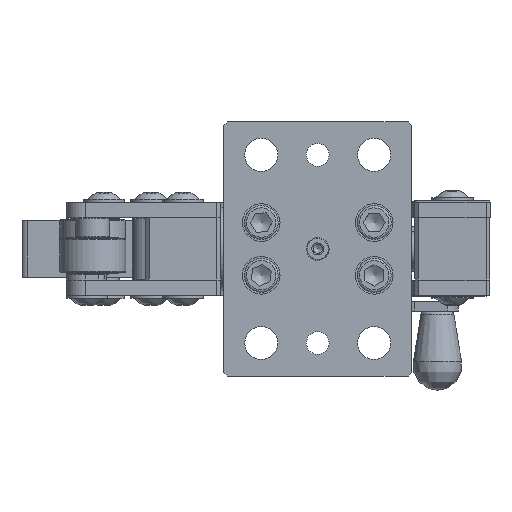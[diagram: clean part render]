
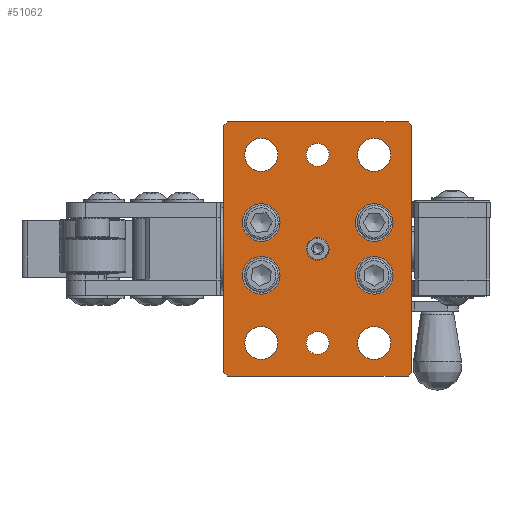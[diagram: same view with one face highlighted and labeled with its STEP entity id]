
A CAD part, left-side view. The second image highlights one B-rep face of the part: STEP entity #51062.
In plain terms, the highlighted planar face has unit normal (-1, 0, 0) as drawn and (0, 0, -1) by its records, which use the part's own axes.
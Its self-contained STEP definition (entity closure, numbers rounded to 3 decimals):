
#3654=FACE_BOUND('',#11273,.T.);
#3655=FACE_BOUND('',#11274,.T.);
#3656=FACE_BOUND('',#11275,.T.);
#3657=FACE_BOUND('',#11276,.T.);
#3658=FACE_BOUND('',#11277,.T.);
#3659=FACE_BOUND('',#11278,.T.);
#3660=FACE_BOUND('',#11279,.T.);
#3661=FACE_BOUND('',#11280,.T.);
#3662=FACE_BOUND('',#11281,.T.);
#3663=FACE_BOUND('',#11282,.T.);
#3664=FACE_BOUND('',#11283,.T.);
#5345=PLANE('',#53559);
#7992=FACE_OUTER_BOUND('',#11272,.T.);
#11272=EDGE_LOOP('',(#47051,#47052,#47053,#47054,#47055,#47056,#47057,#47058));
#11273=EDGE_LOOP('',(#47059));
#11274=EDGE_LOOP('',(#47060));
#11275=EDGE_LOOP('',(#47061));
#11276=EDGE_LOOP('',(#47062));
#11277=EDGE_LOOP('',(#47063));
#11278=EDGE_LOOP('',(#47064));
#11279=EDGE_LOOP('',(#47065));
#11280=EDGE_LOOP('',(#47066));
#11281=EDGE_LOOP('',(#47067));
#11282=EDGE_LOOP('',(#47068));
#11283=EDGE_LOOP('',(#47069));
#16311=LINE('',#89363,#21236);
#16318=LINE('',#89375,#21243);
#16324=LINE('',#89387,#21249);
#16326=LINE('',#89391,#21251);
#16328=LINE('',#89397,#21253);
#16330=LINE('',#89401,#21255);
#16335=LINE('',#89409,#21260);
#16338=LINE('',#89460,#21263);
#21236=VECTOR('',#62763,2.828);
#21243=VECTOR('',#62772,131.);
#21249=VECTOR('',#62782,2.828);
#21251=VECTOR('',#62786,96.);
#21253=VECTOR('',#62792,2.828);
#21255=VECTOR('',#62796,131.);
#21260=VECTOR('',#62803,2.828);
#21263=VECTOR('',#62870,96.);
#21882=CIRCLE('',#53485,6.05);
#21884=CIRCLE('',#53488,6.05);
#21886=CIRCLE('',#53491,6.05);
#21889=CIRCLE('',#53497,8.75);
#21893=CIRCLE('',#53504,8.75);
#21897=CIRCLE('',#53511,8.75);
#21900=CIRCLE('',#53517,8.75);
#21907=CIRCLE('',#53538,10.);
#21910=CIRCLE('',#53544,10.);
#21913=CIRCLE('',#53550,10.);
#21916=CIRCLE('',#53556,10.);
#26386=VERTEX_POINT('',#89304);
#26388=VERTEX_POINT('',#89309);
#26390=VERTEX_POINT('',#89314);
#26393=VERTEX_POINT('',#89323);
#26397=VERTEX_POINT('',#89334);
#26401=VERTEX_POINT('',#89345);
#26404=VERTEX_POINT('',#89354);
#26407=VERTEX_POINT('',#89360);
#26408=VERTEX_POINT('',#89362);
#26412=VERTEX_POINT('',#89373);
#26416=VERTEX_POINT('',#89385);
#26417=VERTEX_POINT('',#89389);
#26418=VERTEX_POINT('',#89394);
#26419=VERTEX_POINT('',#89396);
#26420=VERTEX_POINT('',#89400);
#26429=VERTEX_POINT('',#89429);
#26432=VERTEX_POINT('',#89438);
#26435=VERTEX_POINT('',#89447);
#26438=VERTEX_POINT('',#89456);
#33340=EDGE_CURVE('',#26386,#26386,#21882,.T.);
#33342=EDGE_CURVE('',#26388,#26388,#21884,.T.);
#33344=EDGE_CURVE('',#26390,#26390,#21886,.T.);
#33347=EDGE_CURVE('',#26393,#26393,#21889,.T.);
#33351=EDGE_CURVE('',#26397,#26397,#21893,.T.);
#33355=EDGE_CURVE('',#26401,#26401,#21897,.T.);
#33358=EDGE_CURVE('',#26404,#26404,#21900,.T.);
#33361=EDGE_CURVE('',#26407,#26408,#16311,.T.);
#33368=EDGE_CURVE('',#26407,#26412,#16318,.T.);
#33374=EDGE_CURVE('',#26416,#26412,#16324,.T.);
#33376=EDGE_CURVE('',#26416,#26417,#16326,.T.);
#33378=EDGE_CURVE('',#26418,#26419,#16328,.T.);
#33380=EDGE_CURVE('',#26420,#26419,#16330,.T.);
#33385=EDGE_CURVE('',#26420,#26417,#16335,.T.);
#33394=EDGE_CURVE('',#26429,#26429,#21907,.T.);
#33397=EDGE_CURVE('',#26432,#26432,#21910,.T.);
#33400=EDGE_CURVE('',#26435,#26435,#21913,.T.);
#33403=EDGE_CURVE('',#26438,#26438,#21916,.T.);
#33404=EDGE_CURVE('',#26418,#26408,#16338,.T.);
#47051=ORIENTED_EDGE('',*,*,#33361,.F.);
#47052=ORIENTED_EDGE('',*,*,#33368,.T.);
#47053=ORIENTED_EDGE('',*,*,#33374,.F.);
#47054=ORIENTED_EDGE('',*,*,#33376,.T.);
#47055=ORIENTED_EDGE('',*,*,#33385,.F.);
#47056=ORIENTED_EDGE('',*,*,#33380,.T.);
#47057=ORIENTED_EDGE('',*,*,#33378,.F.);
#47058=ORIENTED_EDGE('',*,*,#33404,.T.);
#47059=ORIENTED_EDGE('',*,*,#33340,.T.);
#47060=ORIENTED_EDGE('',*,*,#33342,.T.);
#47061=ORIENTED_EDGE('',*,*,#33344,.T.);
#47062=ORIENTED_EDGE('',*,*,#33347,.T.);
#47063=ORIENTED_EDGE('',*,*,#33351,.T.);
#47064=ORIENTED_EDGE('',*,*,#33355,.T.);
#47065=ORIENTED_EDGE('',*,*,#33358,.T.);
#47066=ORIENTED_EDGE('',*,*,#33394,.T.);
#47067=ORIENTED_EDGE('',*,*,#33397,.T.);
#47068=ORIENTED_EDGE('',*,*,#33400,.T.);
#47069=ORIENTED_EDGE('',*,*,#33403,.T.);
#51062=ADVANCED_FACE('',(#7992,#3654,#3655,#3656,#3657,#3658,#3659,#3660,
#3661,#3662,#3663,#3664),#5345,.F.);
#53485=AXIS2_PLACEMENT_3D('',#89305,#62693,#62694);
#53488=AXIS2_PLACEMENT_3D('',#89310,#62699,#62700);
#53491=AXIS2_PLACEMENT_3D('',#89315,#62705,#62706);
#53497=AXIS2_PLACEMENT_3D('',#89324,#62717,#62718);
#53504=AXIS2_PLACEMENT_3D('',#89335,#62731,#62732);
#53511=AXIS2_PLACEMENT_3D('',#89346,#62745,#62746);
#53517=AXIS2_PLACEMENT_3D('',#89355,#62757,#62758);
#53538=AXIS2_PLACEMENT_3D('',#89430,#62828,#62829);
#53544=AXIS2_PLACEMENT_3D('',#89439,#62840,#62841);
#53550=AXIS2_PLACEMENT_3D('',#89448,#62852,#62853);
#53556=AXIS2_PLACEMENT_3D('',#89457,#62864,#62865);
#53559=AXIS2_PLACEMENT_3D('',#89461,#62871,#62872);
#62693=DIRECTION('center_axis',(0.,0.,1.));
#62694=DIRECTION('ref_axis',(1.,0.,0.));
#62699=DIRECTION('center_axis',(0.,0.,1.));
#62700=DIRECTION('ref_axis',(1.,0.,0.));
#62705=DIRECTION('center_axis',(0.,0.,1.));
#62706=DIRECTION('ref_axis',(1.,0.,0.));
#62717=DIRECTION('center_axis',(0.,0.,1.));
#62718=DIRECTION('ref_axis',(1.,0.,0.));
#62731=DIRECTION('center_axis',(0.,0.,1.));
#62732=DIRECTION('ref_axis',(1.,0.,0.));
#62745=DIRECTION('center_axis',(0.,0.,1.));
#62746=DIRECTION('ref_axis',(1.,0.,0.));
#62757=DIRECTION('center_axis',(0.,0.,1.));
#62758=DIRECTION('ref_axis',(1.,0.,0.));
#62763=DIRECTION('',(-0.707,-0.707,0.));
#62772=DIRECTION('',(1.,0.,0.));
#62782=DIRECTION('',(-0.707,0.707,0.));
#62786=DIRECTION('',(0.,-1.,0.));
#62792=DIRECTION('',(0.707,-0.707,0.));
#62796=DIRECTION('',(-1.,0.,0.));
#62803=DIRECTION('',(0.707,0.707,0.));
#62828=DIRECTION('center_axis',(0.,0.,1.));
#62829=DIRECTION('ref_axis',(-1.,0.,0.));
#62840=DIRECTION('center_axis',(0.,0.,1.));
#62841=DIRECTION('ref_axis',(-1.,0.,0.));
#62852=DIRECTION('center_axis',(0.,0.,1.));
#62853=DIRECTION('ref_axis',(-1.,0.,0.));
#62864=DIRECTION('center_axis',(0.,0.,1.));
#62865=DIRECTION('ref_axis',(-1.,0.,0.));
#62870=DIRECTION('',(0.,1.,0.));
#62871=DIRECTION('center_axis',(0.,0.,1.));
#62872=DIRECTION('ref_axis',(1.,0.,0.));
#89304=CARTESIAN_POINT('',(-6.05,0.,0.));
#89305=CARTESIAN_POINT('Origin',(0.,0.,0.));
#89309=CARTESIAN_POINT('',(-56.05,0.,0.));
#89310=CARTESIAN_POINT('Origin',(-50.,0.,0.));
#89314=CARTESIAN_POINT('',(43.95,0.,0.));
#89315=CARTESIAN_POINT('Origin',(50.,0.,0.));
#89323=CARTESIAN_POINT('',(41.25,-30.,0.));
#89324=CARTESIAN_POINT('Origin',(50.,-30.,0.));
#89334=CARTESIAN_POINT('',(-58.75,30.,0.));
#89335=CARTESIAN_POINT('Origin',(-50.,30.,0.));
#89345=CARTESIAN_POINT('',(-58.75,-30.,0.));
#89346=CARTESIAN_POINT('Origin',(-50.,-30.,0.));
#89354=CARTESIAN_POINT('',(41.25,30.,0.));
#89355=CARTESIAN_POINT('Origin',(50.,30.,0.));
#89360=CARTESIAN_POINT('',(-65.5,50.,0.));
#89362=CARTESIAN_POINT('',(-67.5,48.,0.));
#89363=CARTESIAN_POINT('',(-62.125,53.375,0.));
#89373=CARTESIAN_POINT('',(65.5,50.,0.));
#89375=CARTESIAN_POINT('',(-67.5,50.,0.));
#89385=CARTESIAN_POINT('',(67.5,48.,0.));
#89387=CARTESIAN_POINT('',(62.125,53.375,0.));
#89389=CARTESIAN_POINT('',(67.5,-48.,0.));
#89391=CARTESIAN_POINT('',(67.5,50.,0.));
#89394=CARTESIAN_POINT('',(-67.5,-48.,0.));
#89396=CARTESIAN_POINT('',(-65.5,-50.,0.));
#89397=CARTESIAN_POINT('',(-62.125,-53.375,0.));
#89400=CARTESIAN_POINT('',(65.5,-50.,0.));
#89401=CARTESIAN_POINT('',(67.5,-50.,0.));
#89409=CARTESIAN_POINT('',(62.125,-53.375,0.));
#89429=CARTESIAN_POINT('',(-24.,-30.,0.));
#89430=CARTESIAN_POINT('Origin',(-14.,-30.,0.));
#89438=CARTESIAN_POINT('',(4.,30.,0.));
#89439=CARTESIAN_POINT('Origin',(14.,30.,0.));
#89447=CARTESIAN_POINT('',(4.,-30.,0.));
#89448=CARTESIAN_POINT('Origin',(14.,-30.,0.));
#89456=CARTESIAN_POINT('',(-24.,30.,0.));
#89457=CARTESIAN_POINT('Origin',(-14.,30.,0.));
#89460=CARTESIAN_POINT('',(-67.5,-50.,0.));
#89461=CARTESIAN_POINT('Origin',(0.,0.,0.));
